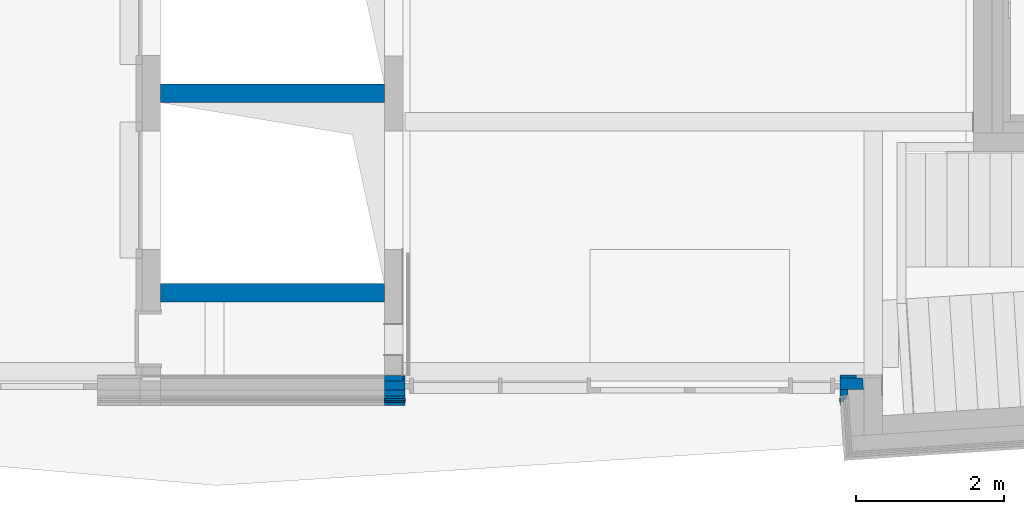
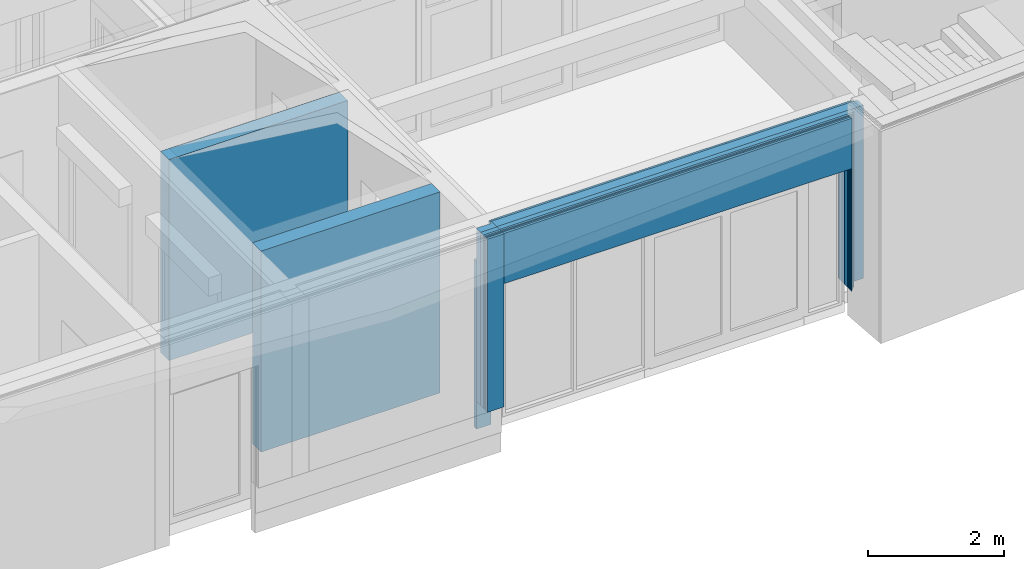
# One storey, part 25 of 207: 17 walls, 7 openings.
"""IFC4 building model written with IfcOpenShell, lengths in metres."""

import ifcopenshell
import ifcopenshell.guid

model = None  # the IFC model being written
_history = None  # IfcOwnerHistory: only IFC2X3 demands one
_inside = {}  # id of a spatial element -> (the spatial element, [elements in it])
_under = {}  # id of a project, library or spatial element -> (it, [spatial elements below it])
_declared = {}  # id of a project -> (the project, [libraries it declares])
_typed = {}  # id of a type object -> (the type object, [elements of that type])
_made_of = {}  # id of a material, layer set ... -> (it, [elements and type objects made of it])


def new_model(schema):
    """Start an empty IFC model of exactly this schema.

    Asked for "IFC4X3", IfcOpenShell would pick the latest addendum, in which some entities
    have other attributes; the version numbers below select the first issue.
    IFC2X3 requires an IfcOwnerHistory on every rooted entity: one is made here for all.
    """
    global model, _history
    if schema == "IFC4X3":
        model = ifcopenshell.file(schema_version=(4, 3, 0, 0))
    else:
        model = ifcopenshell.file(schema=schema)
    _inside.clear()
    _under.clear()
    _declared.clear()
    _typed.clear()
    _made_of.clear()
    _history = None
    if model.schema == "IFC2X3":
        org = make("IfcOrganization", Name="unknown")
        user = make(
            "IfcPersonAndOrganization",
            ThePerson=make("IfcPerson", FamilyName="unknown"),
            TheOrganization=org,
        )
        app = make(
            "IfcApplication",
            ApplicationDeveloper=org,
            Version="unknown",
            ApplicationFullName="unknown",
            ApplicationIdentifier="unknown",
        )
        _history = make(
            "IfcOwnerHistory",
            OwningUser=user,
            OwningApplication=app,
            ChangeAction="ADDED",
            CreationDate=0,
        )
    return model


def make(cls, **values):
    """One entity of the class cls with the attributes given. An attribute that is None is left unset."""
    return model.create_entity(
        cls, **{name: value for name, value in values.items() if value is not None}
    )


def entity(cls, *values):
    """Any entity or typed value of the class cls, its attributes in the order of the schema. None: left unset."""
    e = model.create_entity(cls)
    for i, value in enumerate(values):
        if value is not None:
            e[i] = value
    return e


def rooted(cls, **values):
    """An entity with a GlobalId (a new one), such as an element, a storey or a relation."""
    return make(cls, GlobalId=ifcopenshell.guid.new(), OwnerHistory=_history, **values)


def si_unit(unit_type, name, prefix=None):
    """IfcSIUnit, for example si_unit("LENGTHUNIT", "METRE", prefix="MILLI")."""
    return make("IfcSIUnit", UnitType=unit_type, Prefix=prefix, Name=name)


def converted_unit(unit_type, name, factor, base, dimensions=None, offset=None):
    """IfcConversionBasedUnit, such as the inch: factor (a typed value) times the base unit."""
    return make(
        "IfcConversionBasedUnit"
        if offset is None
        else "IfcConversionBasedUnitWithOffset",
        ConversionOffset=offset,
        Dimensions=None
        if dimensions is None
        else entity("IfcDimensionalExponents", *dimensions),
        UnitType=unit_type,
        Name=name,
        ConversionFactor=make(
            "IfcMeasureWithUnit", ValueComponent=factor, UnitComponent=base
        ),
    )


def derived_unit(unit_type, elements):
    """IfcDerivedUnit: a product of units, each with its exponent."""
    return make(
        "IfcDerivedUnit",
        Elements=[
            make("IfcDerivedUnitElement", Unit=unit, Exponent=power)
            for unit, power in elements
        ],
        UnitType=unit_type,
    )


def assignment(units):
    """IfcUnitAssignment: the units of a project."""
    return None if units is None else make("IfcUnitAssignment", Units=units)


def point(xyz):
    """IfcCartesianPoint."""
    return None if xyz is None else make("IfcCartesianPoint", Coordinates=xyz)


def direction(xyz):
    """IfcDirection."""
    return None if xyz is None else make("IfcDirection", DirectionRatios=xyz)


def frame(location, z_axis=None, x_axis=None):
    """IfcAxis2Placement3D, a coordinate frame: its origin and axes. An axis left out is left unset."""
    return make(
        "IfcAxis2Placement3D",
        Location=point(location),
        Axis=direction(z_axis),
        RefDirection=direction(x_axis),
    )


def frame_2d(location, x_axis=None):
    """IfcAxis2Placement2D, a coordinate frame in the plane: its origin and x axis."""
    return make(
        "IfcAxis2Placement2D", Location=point(location), RefDirection=direction(x_axis)
    )


def origin():
    """The frame at (0, 0, 0) with its axes left unset."""
    return frame((0.0, 0.0, 0.0))


def origin_with_axes():
    """The frame at (0, 0, 0) with the z axis (0, 0, 1) and the x axis (1, 0, 0) written out."""
    return frame((0.0, 0.0, 0.0), z_axis=(0.0, 0.0, 1.0), x_axis=(1.0, 0.0, 0.0))


def place(relative_to, where):
    """IfcLocalPlacement: puts the frame where relative to a parent placement (None: the world)."""
    return make(
        "IfcLocalPlacement", PlacementRelTo=relative_to, RelativePlacement=where
    )


def context(
    kind, dimensions, precision=None, world=None, true_north=None, identifier=None
):
    """IfcGeometricRepresentationContext, for example the 3D "Model" context."""
    return make(
        "IfcGeometricRepresentationContext",
        ContextIdentifier=identifier,
        ContextType=kind,
        CoordinateSpaceDimension=dimensions,
        Precision=precision,
        WorldCoordinateSystem=world,
        TrueNorth=true_north,
    )


def subcontext(parent, identifier, kind, view, scale=None):
    """IfcGeometricRepresentationSubContext, for example "Body" below "Model"."""
    return make(
        "IfcGeometricRepresentationSubContext",
        ContextIdentifier=identifier,
        ContextType=kind,
        ParentContext=parent,
        TargetScale=scale,
        TargetView=view,
    )


def project(units=None, contexts=None):
    """IfcProject with its units and contexts."""
    return rooted(
        "IfcProject",
        Name="project",
        RepresentationContexts=contexts,
        UnitsInContext=assignment(units),
    )


def spatial(cls, under=None, at=None, **own):
    """A site, building, storey or space (cls), placed at a placement, below another one or the project."""
    s = rooted(cls, ObjectPlacement=at, **own)
    if under is not None:
        _under.setdefault(under.id(), (under, []))[1].append(s)
    return s


def polyline(points):
    """IfcPolyline through the points."""
    return make("IfcPolyline", Points=[point(p) for p in points])


def profile(cls, at=None, kind="AREA", **sizes):
    """A parametric profile (cls). Its sizes go by their IFC names, for example OverallWidth=200.0."""
    return make(cls, ProfileType=kind, Position=at, **sizes)


def rectangle(**sizes):
    """IfcRectangleProfileDef."""
    return profile("IfcRectangleProfileDef", **sizes)


def outline(outer, holes=None, kind="AREA"):
    """IfcArbitraryClosedProfileDef: a profile drawn as a closed curve; with holes, ...WithVoids."""
    if holes is None:
        return make("IfcArbitraryClosedProfileDef", ProfileType=kind, OuterCurve=outer)
    return make(
        "IfcArbitraryProfileDefWithVoids",
        ProfileType=kind,
        OuterCurve=outer,
        InnerCurves=holes,
    )


def extrude(swept, where, along, depth):
    """IfcExtrudedAreaSolid: the profile swept, set in the frame where, extruded along a direction by depth."""
    return make(
        "IfcExtrudedAreaSolid",
        SweptArea=swept,
        Position=where,
        ExtrudedDirection=direction(along),
        Depth=depth,
    )


def shape(context_of_items, identifier, shape_type, items):
    """IfcShapeRepresentation: the items that make up one representation, for example the "Body"."""
    return make(
        "IfcShapeRepresentation",
        ContextOfItems=context_of_items,
        RepresentationIdentifier=identifier,
        RepresentationType=shape_type,
        Items=items,
    )


def material(Name=None, Category=None):
    """IfcMaterial."""
    return make("IfcMaterial", Name=Name, Category=Category)


def made_of(thing, what):
    """Note that an element or type object is made of a material, layer set ...; save() writes the relation."""
    if what is not None:
        _made_of.setdefault(what.id(), (what, []))[1].append(thing)
    return thing


def element(
    cls,
    number,
    at=None,
    inside=None,
    cuts=None,
    type_object=None,
    material=None,
    context=None,
    identifier="Body",
    shape_type=None,
    held_by="IfcProductDefinitionShape",
    body=None,
    shapes=None,
    **own,
):
    """One element of the class cls, such as IfcWall. Its Tag is "e" and its number.

    at: its placement. inside: the storey or other place that contains it. cuts: it is an
    opening in that element (IfcRelVoidsElement). A single representation is given by context,
    identifier, shape_type and body (its items); several are given by shapes. held_by: the class
    of the entity that holds the representations. save() writes the other relations.
    """
    e = rooted(cls, Tag="e%d" % number, ObjectPlacement=at, **own)
    if body is not None:
        shapes = [shape(context, identifier, shape_type, body)]
    if shapes is not None:
        e.Representation = make(held_by, Representations=shapes)
    if inside is not None:
        _inside.setdefault(inside.id(), (inside, []))[1].append(e)
    if cuts is not None:
        rooted(
            "IfcRelVoidsElement", RelatingBuildingElement=cuts, RelatedOpeningElement=e
        )
    if type_object is not None:
        _typed.setdefault(type_object.id(), (type_object, []))[1].append(e)
    return made_of(e, material)


def aggregate(whole, parts):
    """IfcRelAggregates: a whole, such as a stair, and the parts it consists of."""
    return rooted("IfcRelAggregates", RelatingObject=whole, RelatedObjects=parts)


def save(model, path):
    """Write the relations noted so far, then the file.

    IfcRelAggregates (storeys below a building ...), IfcRelContainedInSpatialStructure (elements
    in a storey), IfcRelDefinesByType, IfcRelAssociatesMaterial and IfcRelDeclares: one each for
    every whole, place, type object, material and project.
    """
    for whole, parts in _under.values():
        aggregate(whole, parts)
    for where, things in _inside.values():
        rooted(
            "IfcRelContainedInSpatialStructure",
            RelatedElements=things,
            RelatingStructure=where,
        )
    for kind, things in _typed.values():
        rooted("IfcRelDefinesByType", RelatedObjects=things, RelatingType=kind)
    for what, things in _made_of.values():
        rooted("IfcRelAssociatesMaterial", RelatedObjects=things, RelatingMaterial=what)
    for by, libraries in _declared.values():
        rooted("IfcRelDeclares", RelatingContext=by, RelatedDefinitions=libraries)
    model.write(path)


model = new_model("IFC4")

# Units and contexts
model_context = context("Model", 3, precision=1e-05, world=origin())
body_context = subcontext(model_context, "Body", "Model", "MODEL_VIEW")
ifc_project = project(units=[si_unit("LENGTHUNIT", "METRE"), si_unit("AREAUNIT", "SQUARE_METRE"), si_unit("VOLUMEUNIT", "CUBIC_METRE"), si_unit("MASSUNIT", "GRAM", prefix="KILO"), converted_unit("PLANEANGLEUNIT", "DEGREE", entity("IfcPlaneAngleMeasure", 0.0174532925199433), si_unit("PLANEANGLEUNIT", "RADIAN"), dimensions=[0, 0, 0, 0, 0, 0, 0]), derived_unit("THERMALTRANSMITTANCEUNIT", [(si_unit("POWERUNIT", "WATT"), 1), (si_unit("THERMODYNAMICTEMPERATUREUNIT", "KELVIN"), -1), (si_unit("LENGTHUNIT", "METRE"), -2)]), derived_unit("VOLUMETRICFLOWRATEUNIT", [(si_unit("LENGTHUNIT", "METRE"), 3), (converted_unit("TIMEUNIT", "hour", entity("IfcTimeMeasure", 3600.0), si_unit("TIMEUNIT", "SECOND"), dimensions=[0, 0, 1, 0, 0, 0, 0]), -1), (si_unit("LENGTHUNIT", "METRE"), -1)])], contexts=[model_context])

# Site, building, storey
site_placement = place(None, origin())
site = spatial("IfcSite", under=ifc_project, at=site_placement, Name="Psychiatrie Neubau Wunstorf", CompositionType="ELEMENT")
building_placement = place(site_placement, origin())
building = spatial("IfcBuilding", under=site, at=building_placement, Name="Neubau H2 Stationsgebäude", CompositionType="ELEMENT")
storey_placement = place(building_placement, frame((0.0, 0.0, -0.2)))
storey = spatial("IfcBuildingStorey", under=building, at=storey_placement, Name="H2 Ebene 0", CompositionType="ELEMENT", Elevation=-0.2)

# Wall, opening
ifc_material_1 = material(Name="WA-LB")
wall_1_placement = place(storey_placement, frame((56.697246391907, -6.114000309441, 0.5), z_axis=(0.0, 0.0, 1.0), x_axis=(-1.0, 5.94708527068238e-16, 0.0)))
wall_1 = element("IfcWall", 1, at=wall_1_placement, inside=storey, material=ifc_material_1, context=body_context, shape_type="SweptSolid", body=[
    extrude(rectangle(XDim=6.11724675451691, YDim=0.036, at=frame_2d((3.05862337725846, 0.018), x_axis=(1.0, 0.0))), origin_with_axes(), (0.0, 0.0, 1.0), 3.1),
])
opening_1_placement = place(wall_1_placement, frame((0.227246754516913, 0.0, -0.5), z_axis=(-7.89491928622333e-16, 1.0, 0.0), x_axis=(0.0, 0.0, 1.0)))
element("IfcOpeningElement", 2, at=opening_1_placement, cuts=wall_1, Name="Türöffnung", ObjectType="Opening", context=body_context, shape_type="SweptSolid", body=[
    extrude(outline(polyline([(2.7, 5.89), (2.7, 0.0), (0.0, 0.0), (0.0, 5.89), (2.7, 5.89)])), origin_with_axes(), (0.0, 0.0, 1.0), 0.036),
])

ifc_material_2 = material(Name="WA-HD")
wall_2_placement = place(storey_placement, frame((56.7776591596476, -6.150000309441, 0.5), z_axis=(0.0, 0.0, 1.0), x_axis=(-1.0, 5.86992362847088e-16, 0.0)))
wall_2 = element("IfcWall", 3, at=wall_2_placement, inside=storey, material=ifc_material_2, context=body_context, shape_type="SweptSolid", body=[
    extrude(outline(polyline([(-6.19765952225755, -0.160000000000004), (0.0, -0.160000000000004), (0.0, 0.0), (-6.20792630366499, 0.0), (-6.19765952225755, -0.160000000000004)])), frame((6.19765952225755, 0.160000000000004, 0.0), z_axis=(0.0, 0.0, 1.0), x_axis=(1.0, 0.0, 0.0)), (0.0, 0.0, 1.0), 3.1),
])
opening_2_placement = place(wall_2_placement, frame((0.307659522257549, 0.0, -0.5), z_axis=(-7.105427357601e-16, 1.0, 0.0), x_axis=(0.0, 0.0, 1.0)))
element("IfcOpeningElement", 4, at=opening_2_placement, cuts=wall_2, Name="Türöffnung", ObjectType="Opening", context=body_context, shape_type="SweptSolid", body=[
    extrude(outline(polyline([(2.7, 5.89), (2.7, 0.0), (0.0, 0.0), (0.0, 5.89), (2.7, 5.89)])), origin_with_axes(), (0.0, 0.0, 1.0), 0.16),
])

ifc_material_3 = material(Name="WA-DL")
wall_3_placement = place(storey_placement, frame((56.5774940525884, -6.310000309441, 0.5), z_axis=(0.0, 0.0, 1.0), x_axis=(-1.0, 6.06583108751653e-16, 0.0)))
wall_3 = element("IfcWall", 5, at=wall_3_placement, inside=storey, material=ifc_material_3, context=body_context, shape_type="SweptSolid", body=[
    extrude(outline(polyline([(-5.99749441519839, -0.0800000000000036), (0.0, -0.0800000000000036), (0.0, 0.0), (-5.98158461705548, 0.0), (-5.98154893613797, -0.000556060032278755), (-6.00262780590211, 0.0), (-5.99749441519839, -0.0800000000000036)])), frame((5.99749441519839, 0.0800000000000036, 0.0), z_axis=(0.0, 0.0, 1.0), x_axis=(1.0, 0.0, 0.0)), (0.0, 0.0, 1.0), 3.1),
])
opening_3_placement = place(wall_3_placement, frame((0.107494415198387, 0.0, -0.5), z_axis=(-5.32907051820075e-16, 1.0, 0.0), x_axis=(0.0, 0.0, 1.0)))
element("IfcOpeningElement", 6, at=opening_3_placement, cuts=wall_3, Name="Türöffnung", ObjectType="Opening", context=body_context, shape_type="SweptSolid", body=[
    extrude(outline(polyline([(2.7, 5.89), (2.7, 0.0), (0.0, 0.0), (0.0, 5.89), (2.7, 5.89)])), origin_with_axes(), (0.0, 0.0, 1.0), 0.08),
])

ifc_material_4 = material(Name="WA-LB")
wall_4_placement = place(storey_placement, frame((56.5615842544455, -6.390000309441, 0.5), z_axis=(0.0, 0.0, 1.0), x_axis=(-1.0, 6.08196496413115e-16, 0.0)))
wall_4 = element("IfcWall", 7, at=wall_4_placement, inside=storey, material=ifc_material_4, context=body_context, shape_type="SweptSolid", body=[
    extrude(outline(polyline([(-5.98158461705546, -0.0360000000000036), (0.0, -0.0360000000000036), (0.0, 0.0), (-5.98389464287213, 0.0), (-5.98158461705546, -0.0360000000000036)])), frame((5.98158461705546, 0.0360000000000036, 0.0), z_axis=(0.0, 0.0, 1.0), x_axis=(1.0, 0.0, 0.0)), (0.0, 0.0, 1.0), 3.1),
])
opening_4_placement = place(wall_4_placement, frame((0.0915846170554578, 0.0, -0.5), z_axis=(-7.89491928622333e-16, 1.0, 0.0), x_axis=(0.0, 0.0, 1.0)))
element("IfcOpeningElement", 8, at=opening_4_placement, cuts=wall_4, Name="Türöffnung", ObjectType="Opening", context=body_context, shape_type="SweptSolid", body=[
    extrude(outline(polyline([(2.7, 5.89), (2.7, 0.0), (0.0, 0.0), (0.0, 5.89), (2.7, 5.89)])), origin_with_axes(), (0.0, 0.0, 1.0), 0.036),
])

ifc_material_5 = material(Name="WA-KL")
wall_5_placement = place(storey_placement, frame((56.5398449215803, -6.426000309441, 0.5), z_axis=(0.0, 0.0, 1.0), x_axis=(-1.0, 6.10414974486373e-16, 0.0)))
wall_5 = element("IfcWall", 9, at=wall_5_placement, inside=storey, material=ifc_material_5, context=body_context, shape_type="SweptSolid", body=[
    extrude(outline(polyline([(-5.95984528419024, -0.0240000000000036), (0.0, -0.0240000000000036), (0.0, 0.0), (-5.96138530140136, 0.0), (-5.95984528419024, -0.0240000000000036)])), frame((5.95984528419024, 0.0240000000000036, 0.0), z_axis=(0.0, 0.0, 1.0), x_axis=(1.0, 0.0, 0.0)), (0.0, 0.0, 1.0), 3.1),
])
opening_5_placement = place(wall_5_placement, frame((0.0698452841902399, 0.0, -0.5), z_axis=(-5.9211894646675e-16, 1.0, 0.0), x_axis=(0.0, 0.0, 1.0)))
element("IfcOpeningElement", 10, at=opening_5_placement, cuts=wall_5, Name="Türöffnung", ObjectType="Opening", context=body_context, shape_type="SweptSolid", body=[
    extrude(outline(polyline([(2.7, 5.89), (2.7, 0.0), (0.0, 0.0), (0.0, 5.89), (2.7, 5.89)])), origin_with_axes(), (0.0, 0.0, 1.0), 0.024),
])

ifc_material_6 = material(Name="WA-TL")
wall_6_placement = place(storey_placement, frame((56.5173355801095, -6.450000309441, 0.5), z_axis=(0.0, 0.0, 1.0), x_axis=(-1.0, 6.12729150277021e-16, 0.0)))
wall_6 = element("IfcWall", 11, at=wall_6_placement, inside=storey, material=ifc_material_6, context=body_context, shape_type="SweptSolid", body=[
    extrude(outline(polyline([(-5.93733594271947, -0.0240000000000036), (0.0, -0.0240000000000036), (0.0, 0.0), (-5.93887595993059, 0.0), (-5.93733594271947, -0.0240000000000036)])), frame((5.93733594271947, 0.0240000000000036, 0.0), z_axis=(0.0, 0.0, 1.0), x_axis=(1.0, 0.0, 0.0)), (0.0, 0.0, 1.0), 3.1),
])
opening_6_placement = place(wall_6_placement, frame((0.0473359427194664, 0.0, -0.5), z_axis=(-5.9211894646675e-16, 1.0, 0.0), x_axis=(0.0, 0.0, 1.0)))
element("IfcOpeningElement", 12, at=opening_6_placement, cuts=wall_6, Name="Türöffnung", ObjectType="Opening", context=body_context, shape_type="SweptSolid", body=[
    extrude(outline(polyline([(2.7, 5.89), (2.7, 0.0), (0.0, 0.0), (0.0, 5.89), (2.7, 5.89)])), origin_with_axes(), (0.0, 0.0, 1.0), 0.024),
])

ifc_material_7 = material(Name="WA-HS")
wall_7_placement = place(storey_placement, frame((56.4767892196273, -6.474000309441, 0.5), z_axis=(0.0, 0.0, 1.0), x_axis=(-1.0, 6.16942279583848e-16, 0.0)))
wall_7 = element("IfcWall", 13, at=wall_7_placement, inside=storey, material=ifc_material_7, context=body_context, shape_type="SweptSolid", body=[
    extrude(outline(polyline([(-5.89678958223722, -0.0420000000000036), (0.0, -0.0420000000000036), (0.0, 0.0), (-5.89948461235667, 0.0), (-5.89678958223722, -0.0420000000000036)])), frame((5.89678958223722, 0.0420000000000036, 0.0), z_axis=(0.0, 0.0, 1.0), x_axis=(1.0, 0.0, 0.0)), (0.0, 0.0, 1.0), 3.1),
])
opening_7_placement = place(wall_7_placement, frame((0.00678958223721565, 0.0, -0.5), z_axis=(-6.13266051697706e-16, 1.0, 0.0), x_axis=(0.0, 0.0, 1.0)))
element("IfcOpeningElement", 14, at=opening_7_placement, cuts=wall_7, Name="Türöffnung", ObjectType="Opening", context=body_context, shape_type="SweptSolid", body=[
    extrude(outline(polyline([(2.7, 5.89), (2.7, 0.0), (0.0, 0.0), (0.0, 5.89), (2.7, 5.89)])), origin_with_axes(), (0.0, 0.0, 1.0), 0.042),
])

# Walls
ifc_material_8 = material(Name="WA-LB")
wall_8_placement = place(storey_placement, frame((50.5799996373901, -6.1210003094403, 0.5), z_axis=(0.0, 0.0, 1.0), x_axis=(-1.0, 0.0, 0.0)))
element("IfcWall", 15, at=wall_8_placement, inside=storey, material=ifc_material_8, context=body_context, shape_type="SweptSolid", body=[
    extrude(rectangle(XDim=0.0299996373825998, YDim=0.036, at=frame_2d((0.0149998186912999, 0.018), x_axis=(1.0, 0.0))), origin_with_axes(), (0.0, 0.0, 1.0), 3.1),
])
ifc_material_9 = material(Name="WA-HD")
wall_9_placement = place(storey_placement, frame((50.5500000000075, -6.1570003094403, 0.5), z_axis=(0.0, 0.0, 1.0), x_axis=(-0.988644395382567, -0.150273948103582, 0.0)))
element("IfcWall", 16, at=wall_9_placement, inside=storey, material=ifc_material_9, context=body_context, shape_type="SweptSolid", body=[
    extrude(outline(polyline([(-0.30086390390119, -0.116106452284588), (-0.271204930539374, -0.120614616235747), (-0.265494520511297, -0.0830461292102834), (-0.0183334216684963, -0.120614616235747), (0.0, 0.0), (-0.276820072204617, 0.0420766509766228), (-0.30086390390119, -0.116106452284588)])), frame((0.271204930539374, 0.120614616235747, 0.0), z_axis=(0.0, 0.0, 1.0), x_axis=(1.0, 0.0, 0.0)), (0.0, 0.0, 1.0), 3.1),
])
ifc_material_10 = material(Name="WA-DL")
wall_10_placement = place(storey_placement, frame((50.5799996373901, -6.3170003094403, 0.5), z_axis=(0.0, 0.0, 1.0), x_axis=(-1.0, 0.0, 0.0)))
element("IfcWall", 17, at=wall_10_placement, inside=storey, material=ifc_material_10, context=body_context, shape_type="SweptSolid", body=[
    extrude(rectangle(XDim=0.279999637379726, YDim=0.08, at=frame_2d((0.139999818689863, 0.04), x_axis=(1.0, 0.0))), origin_with_axes(), (0.0, 0.0, 1.0), 3.1),
])
ifc_material_11 = material(Name="WA-TP")
wall_11_placement = place(storey_placement, frame((50.5799996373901, -6.3970003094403, 0.5), z_axis=(0.0, 0.0, 1.0), x_axis=(-1.0, 0.0, 0.0)))
element("IfcWall", 18, at=wall_11_placement, inside=storey, material=ifc_material_11, context=body_context, shape_type="SweptSolid", body=[
    extrude(rectangle(XDim=0.279999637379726, YDim=0.036, at=frame_2d((0.139999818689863, 0.018), x_axis=(1.0, 0.0))), origin_with_axes(), (0.0, 0.0, 1.0), 3.1),
])
ifc_material_12 = material(Name="WA-KL")
wall_12_placement = place(storey_placement, frame((50.5799996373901, -6.4330003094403, 0.5), z_axis=(0.0, 0.0, 1.0), x_axis=(-1.0, 0.0, 0.0)))
element("IfcWall", 19, at=wall_12_placement, inside=storey, material=ifc_material_12, context=body_context, shape_type="SweptSolid", body=[
    extrude(rectangle(XDim=0.279999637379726, YDim=0.024, at=frame_2d((0.139999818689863, 0.012), x_axis=(1.0, 0.0))), origin_with_axes(), (0.0, 0.0, 1.0), 3.1),
])
ifc_material_13 = material(Name="WA-TL")
wall_13_placement = place(storey_placement, frame((50.5799996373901, -6.4570003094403, 0.5), z_axis=(0.0, 0.0, 1.0), x_axis=(-1.0, 0.0, 0.0)))
element("IfcWall", 20, at=wall_13_placement, inside=storey, material=ifc_material_13, context=body_context, shape_type="SweptSolid", body=[
    extrude(rectangle(XDim=0.279999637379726, YDim=0.024, at=frame_2d((0.139999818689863, 0.012), x_axis=(1.0, 0.0))), origin_with_axes(), (0.0, 0.0, 1.0), 3.1),
])
ifc_material_14 = material(Name="WA-HS")
wall_14_placement = place(storey_placement, frame((50.5799996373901, -6.4810003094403, 0.5), z_axis=(0.0, 0.0, 1.0), x_axis=(-1.0, 0.0, 0.0)))
element("IfcWall", 21, at=wall_14_placement, inside=storey, material=ifc_material_14, context=body_context, shape_type="SweptSolid", body=[
    extrude(rectangle(XDim=0.279999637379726, YDim=0.042, at=frame_2d((0.139999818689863, 0.021), x_axis=(1.0, 0.0))), origin_with_axes(), (0.0, 0.0, 1.0), 3.1),
])
ifc_material_15 = material(Name="WI-STB")
wall_15_placement = place(storey_placement, frame((47.2700048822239, -2.42500030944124, 0.0)))
element("IfcWall", 22, at=wall_15_placement, inside=storey, material=ifc_material_15, context=body_context, shape_type="SweptSolid", body=[
    extrude(rectangle(XDim=3.02999511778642, YDim=0.25, at=frame_2d((1.51499755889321, 0.125), x_axis=(1.0, 0.0))), origin_with_axes(), (0.0, 0.0, 1.0), 3.6),
])
ifc_material_16 = material(Name="WI-STB")
wall_16_placement = place(storey_placement, frame((47.2700048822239, -5.12500030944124, 0.0)))
element("IfcWall", 23, at=wall_16_placement, inside=storey, material=ifc_material_16, context=body_context, shape_type="SweptSolid", body=[
    extrude(rectangle(XDim=3.02999511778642, YDim=0.25, at=frame_2d((1.51499755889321, 0.125), x_axis=(1.0, 0.0))), origin_with_axes(), (0.0, 0.0, 1.0), 3.6),
])
ifc_material_17 = material(Name="WI-STB")
wall_17_placement = place(storey_placement, frame((50.5500000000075, -6.19500030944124, 0.0), z_axis=(0.0, 0.0, 1.0), x_axis=(0.0, 1.0, 0.0)))
element("IfcWall", 24, at=wall_17_placement, inside=storey, material=ifc_material_17, context=body_context, shape_type="SweptSolid", body=[
    extrude(rectangle(XDim=0.0740000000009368, YDim=0.25, at=frame_2d((0.0370000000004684, 0.125), x_axis=(1.0, 0.0))), origin_with_axes(), (0.0, 0.0, 1.0), 3.0),
])

save(model, "model.ifc")
